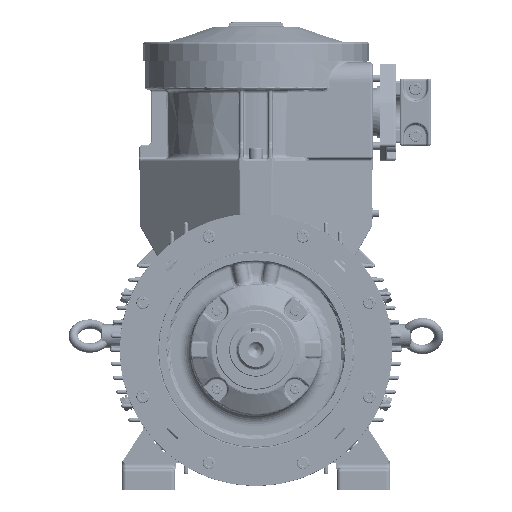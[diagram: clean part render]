
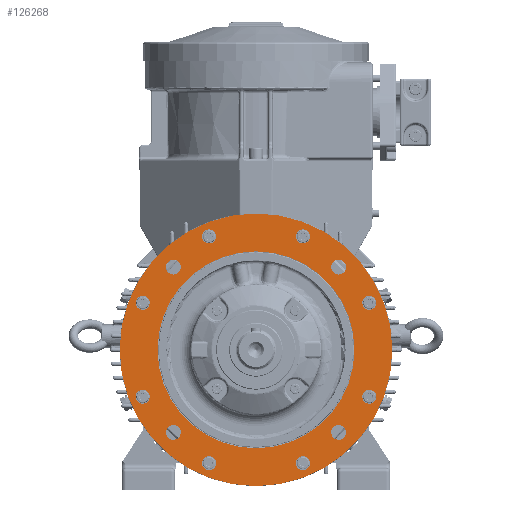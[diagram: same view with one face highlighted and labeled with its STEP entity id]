
A CAD part, left-side view. The second image highlights one B-rep face of the part: STEP entity #126268.
In plain terms, the highlighted planar face has unit normal (-1, 0, 0).
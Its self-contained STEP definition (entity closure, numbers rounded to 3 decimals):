
#7319=PLANE('',#174630);
#43558=ORIENTED_EDGE('',*,*,#74296,.T.);
#43559=ORIENTED_EDGE('',*,*,#74297,.T.);
#43560=ORIENTED_EDGE('',*,*,#74298,.T.);
#43561=ORIENTED_EDGE('',*,*,#74299,.T.);
#43562=ORIENTED_EDGE('',*,*,#74300,.T.);
#43563=ORIENTED_EDGE('',*,*,#74301,.T.);
#43564=ORIENTED_EDGE('',*,*,#74302,.T.);
#43565=ORIENTED_EDGE('',*,*,#74303,.T.);
#43566=ORIENTED_EDGE('',*,*,#74304,.F.);
#43567=ORIENTED_EDGE('',*,*,#74305,.F.);
#43568=ORIENTED_EDGE('',*,*,#74306,.F.);
#43569=ORIENTED_EDGE('',*,*,#74307,.F.);
#43570=ORIENTED_EDGE('',*,*,#73830,.T.);
#43571=ORIENTED_EDGE('',*,*,#74294,.F.);
#73830=EDGE_CURVE('',#90346,#90346,#98350,.T.);
#74294=EDGE_CURVE('',#90675,#90675,#98505,.T.);
#74296=EDGE_CURVE('',#90677,#90677,#98507,.T.);
#74297=EDGE_CURVE('',#90678,#90678,#98508,.T.);
#74298=EDGE_CURVE('',#90679,#90679,#98509,.T.);
#74299=EDGE_CURVE('',#90680,#90680,#98510,.T.);
#74300=EDGE_CURVE('',#90681,#90681,#98511,.T.);
#74301=EDGE_CURVE('',#90682,#90682,#98512,.T.);
#74302=EDGE_CURVE('',#90683,#90683,#98513,.T.);
#74303=EDGE_CURVE('',#90684,#90684,#98514,.T.);
#74304=EDGE_CURVE('',#90685,#90685,#98515,.T.);
#74305=EDGE_CURVE('',#90686,#90686,#98516,.T.);
#74306=EDGE_CURVE('',#90687,#90687,#98517,.T.);
#74307=EDGE_CURVE('',#90688,#90688,#98518,.T.);
#90346=VERTEX_POINT('',#232351);
#90675=VERTEX_POINT('',#234669);
#90677=VERTEX_POINT('',#234674);
#90678=VERTEX_POINT('',#234676);
#90679=VERTEX_POINT('',#234678);
#90680=VERTEX_POINT('',#234680);
#90681=VERTEX_POINT('',#234682);
#90682=VERTEX_POINT('',#234684);
#90683=VERTEX_POINT('',#234686);
#90684=VERTEX_POINT('',#234688);
#90685=VERTEX_POINT('',#234690);
#90686=VERTEX_POINT('',#234692);
#90687=VERTEX_POINT('',#234694);
#90688=VERTEX_POINT('',#234696);
#98350=CIRCLE('',#174329,175.);
#98505=CIRCLE('',#174628,126.4);
#98507=CIRCLE('',#174631,9.);
#98508=CIRCLE('',#174632,9.);
#98509=CIRCLE('',#174633,9.);
#98510=CIRCLE('',#174634,9.);
#98511=CIRCLE('',#174635,9.);
#98512=CIRCLE('',#174636,9.);
#98513=CIRCLE('',#174637,9.);
#98514=CIRCLE('',#174638,9.);
#98515=CIRCLE('',#174639,9.5);
#98516=CIRCLE('',#174640,9.5);
#98517=CIRCLE('',#174641,9.5);
#98518=CIRCLE('',#174642,9.5);
#106056=EDGE_LOOP('',(#43558));
#106057=EDGE_LOOP('',(#43559));
#106058=EDGE_LOOP('',(#43560));
#106059=EDGE_LOOP('',(#43561));
#106060=EDGE_LOOP('',(#43562));
#106061=EDGE_LOOP('',(#43563));
#106062=EDGE_LOOP('',(#43564));
#106063=EDGE_LOOP('',(#43565));
#106064=EDGE_LOOP('',(#43566));
#106065=EDGE_LOOP('',(#43567));
#106066=EDGE_LOOP('',(#43568));
#106067=EDGE_LOOP('',(#43569));
#106068=EDGE_LOOP('',(#43570));
#106069=EDGE_LOOP('',(#43571));
#115782=FACE_BOUND('',#106056,.T.);
#115783=FACE_BOUND('',#106057,.T.);
#115784=FACE_BOUND('',#106058,.T.);
#115785=FACE_BOUND('',#106059,.T.);
#115786=FACE_BOUND('',#106060,.T.);
#115787=FACE_BOUND('',#106061,.T.);
#115788=FACE_BOUND('',#106062,.T.);
#115789=FACE_BOUND('',#106063,.T.);
#115790=FACE_BOUND('',#106064,.T.);
#115791=FACE_BOUND('',#106065,.T.);
#115792=FACE_BOUND('',#106066,.T.);
#115793=FACE_BOUND('',#106067,.T.);
#115794=FACE_BOUND('',#106068,.T.);
#115795=FACE_BOUND('',#106069,.T.);
#126268=ADVANCED_FACE('',(#115782,#115783,#115784,#115785,#115786,#115787,
#115788,#115789,#115790,#115791,#115792,#115793,#115794,#115795),#7319,
 .T.);
#174329=AXIS2_PLACEMENT_3D('',#232350,#194759,#194760);
#174628=AXIS2_PLACEMENT_3D('',#234668,#195501,#195502);
#174630=AXIS2_PLACEMENT_3D('',#234672,#195505,#195506);
#174631=AXIS2_PLACEMENT_3D('',#234673,#195507,#195508);
#174632=AXIS2_PLACEMENT_3D('',#234675,#195509,#195510);
#174633=AXIS2_PLACEMENT_3D('',#234677,#195511,#195512);
#174634=AXIS2_PLACEMENT_3D('',#234679,#195513,#195514);
#174635=AXIS2_PLACEMENT_3D('',#234681,#195515,#195516);
#174636=AXIS2_PLACEMENT_3D('',#234683,#195517,#195518);
#174637=AXIS2_PLACEMENT_3D('',#234685,#195519,#195520);
#174638=AXIS2_PLACEMENT_3D('',#234687,#195521,#195522);
#174639=AXIS2_PLACEMENT_3D('',#234689,#195523,#195524);
#174640=AXIS2_PLACEMENT_3D('',#234691,#195525,#195526);
#174641=AXIS2_PLACEMENT_3D('',#234693,#195527,#195528);
#174642=AXIS2_PLACEMENT_3D('',#234695,#195529,#195530);
#194759=DIRECTION('',(-1.,0.,0.));
#194760=DIRECTION('',(0.,0.,-1.));
#195501=DIRECTION('',(-1.,0.,0.));
#195502=DIRECTION('',(0.,0.,-1.));
#195505=DIRECTION('',(-1.,0.,0.));
#195506=DIRECTION('',(0.,0.,-1.));
#195507=DIRECTION('',(1.,0.,0.));
#195508=DIRECTION('',(0.,0.,-1.));
#195509=DIRECTION('',(1.,0.,0.));
#195510=DIRECTION('',(0.,0.,-1.));
#195511=DIRECTION('',(1.,0.,0.));
#195512=DIRECTION('',(0.,0.,-1.));
#195513=DIRECTION('',(1.,0.,0.));
#195514=DIRECTION('',(0.,0.,-1.));
#195515=DIRECTION('',(1.,0.,0.));
#195516=DIRECTION('',(0.,0.,-1.));
#195517=DIRECTION('',(1.,0.,0.));
#195518=DIRECTION('',(0.,0.,-1.));
#195519=DIRECTION('',(1.,0.,0.));
#195520=DIRECTION('',(0.,0.,-1.));
#195521=DIRECTION('',(1.,0.,0.));
#195522=DIRECTION('',(0.,0.,-1.));
#195523=DIRECTION('',(-1.,0.,0.));
#195524=DIRECTION('',(0.,-1.,0.));
#195525=DIRECTION('',(-1.,0.,0.));
#195526=DIRECTION('',(0.,-1.,0.));
#195527=DIRECTION('',(-1.,0.,0.));
#195528=DIRECTION('',(0.,-1.,0.));
#195529=DIRECTION('',(-1.,0.,0.));
#195530=DIRECTION('',(0.,-1.,0.));
#232350=CARTESIAN_POINT('',(-42.756,0.,0.));
#232351=CARTESIAN_POINT('',(-42.756,0.,-175.));
#234668=CARTESIAN_POINT('',(-42.756,0.,0.));
#234669=CARTESIAN_POINT('',(-42.756,0.,-126.4));
#234672=CARTESIAN_POINT('',(-42.756,0.,126.4));
#234673=CARTESIAN_POINT('',(-42.756,145.511,60.273));
#234674=CARTESIAN_POINT('',(-42.756,145.511,51.273));
#234675=CARTESIAN_POINT('',(-42.756,145.511,-60.273));
#234676=CARTESIAN_POINT('',(-42.756,145.511,-69.273));
#234677=CARTESIAN_POINT('',(-42.756,60.273,-145.511));
#234678=CARTESIAN_POINT('',(-42.756,60.273,-154.511));
#234679=CARTESIAN_POINT('',(-42.756,-60.273,-145.511));
#234680=CARTESIAN_POINT('',(-42.756,-60.273,-154.511));
#234681=CARTESIAN_POINT('',(-42.756,-145.511,-60.273));
#234682=CARTESIAN_POINT('',(-42.756,-145.511,-69.273));
#234683=CARTESIAN_POINT('',(-42.756,-145.511,60.273));
#234684=CARTESIAN_POINT('',(-42.756,-145.511,51.273));
#234685=CARTESIAN_POINT('',(-42.756,-60.273,145.511));
#234686=CARTESIAN_POINT('',(-42.756,-60.273,136.511));
#234687=CARTESIAN_POINT('',(-42.756,60.273,145.511));
#234688=CARTESIAN_POINT('',(-42.756,60.273,136.511));
#234689=CARTESIAN_POINT('',(-42.756,-106.066,-106.066));
#234690=CARTESIAN_POINT('',(-42.756,-115.566,-106.066));
#234691=CARTESIAN_POINT('',(-42.756,106.066,-106.066));
#234692=CARTESIAN_POINT('',(-42.756,96.566,-106.066));
#234693=CARTESIAN_POINT('',(-42.756,106.066,106.066));
#234694=CARTESIAN_POINT('',(-42.756,96.566,106.066));
#234695=CARTESIAN_POINT('',(-42.756,-106.066,106.066));
#234696=CARTESIAN_POINT('',(-42.756,-115.566,106.066));
